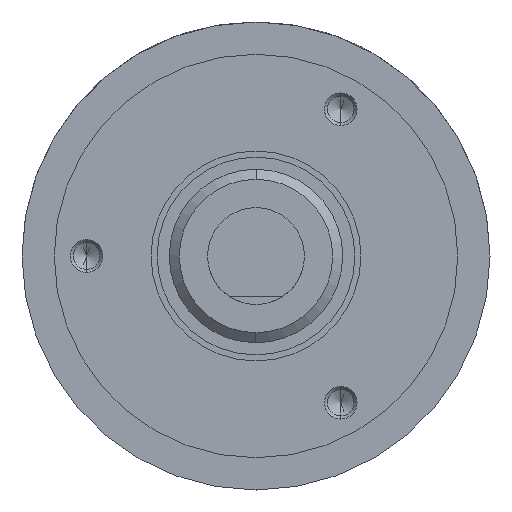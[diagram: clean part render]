
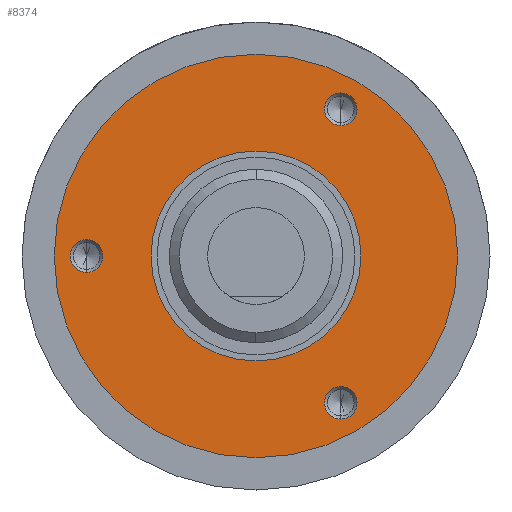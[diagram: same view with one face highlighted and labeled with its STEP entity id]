
A CAD part, left-side view. The second image highlights one B-rep face of the part: STEP entity #8374.
In plain terms, the highlighted planar face has unit normal (-1, 0, 0).
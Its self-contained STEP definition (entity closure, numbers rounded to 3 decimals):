
#44 = EDGE_LOOP ( 'NONE', ( #3217, #13370 ) ) ;
#121 = FACE_BOUND ( 'NONE', #8578, .T. ) ;
#270 = DIRECTION ( 'NONE',  ( 0., 0., 1. ) ) ;
#388 = DIRECTION ( 'NONE',  ( 0., 0., -1. ) ) ;
#447 = EDGE_CURVE ( 'NONE', #6017, #2593, #11311, .T. ) ;
#530 = DIRECTION ( 'NONE',  ( 0., 0., 1. ) ) ;
#612 = CIRCLE ( 'NONE', #10040, 2.025 ) ;
#1524 = DIRECTION ( 'NONE',  ( 0., 0., 1. ) ) ;
#1600 = CARTESIAN_POINT ( 'NONE',  ( -3.622, 14.923, -18.187 ) ) ;
#2144 = CARTESIAN_POINT ( 'NONE',  ( -3.622, 46.423, 2.025 ) ) ;
#2169 = EDGE_CURVE ( 'NONE', #2645, #8111, #5816, .T. ) ;
#2492 = ORIENTED_EDGE ( 'NONE', *, *, #2873, .T. ) ;
#2593 = VERTEX_POINT ( 'NONE', #11066 ) ;
#2645 = VERTEX_POINT ( 'NONE', #5687 ) ;
#2729 = CARTESIAN_POINT ( 'NONE',  ( -3.622, 14.923, 18.187 ) ) ;
#2788 = AXIS2_PLACEMENT_3D ( 'NONE', #15439, #14157, #9122 ) ;
#2873 = EDGE_CURVE ( 'NONE', #14090, #13572, #11661, .T. ) ;
#3103 = CARTESIAN_POINT ( 'NONE',  ( -3.622, 25.423, -25. ) ) ;
#3181 = ORIENTED_EDGE ( 'NONE', *, *, #16649, .T. ) ;
#3217 = ORIENTED_EDGE ( 'NONE', *, *, #11172, .F. ) ;
#3430 = DIRECTION ( 'NONE',  ( -1., 0., 0. ) ) ;
#3604 = AXIS2_PLACEMENT_3D ( 'NONE', #11945, #4068, #6920 ) ;
#3695 = CARTESIAN_POINT ( 'NONE',  ( -3.622, 25.423, 0. ) ) ;
#3825 = DIRECTION ( 'NONE',  ( -1., 0., 0. ) ) ;
#3914 = CIRCLE ( 'NONE', #8353, 2.025 ) ;
#4068 = DIRECTION ( 'NONE',  ( -1., 0., 0. ) ) ;
#4412 = EDGE_CURVE ( 'NONE', #9303, #6097, #6121, .T. ) ;
#4671 = DIRECTION ( 'NONE',  ( 0., 0., 1. ) ) ;
#4751 = EDGE_LOOP ( 'NONE', ( #5729, #13474 ) ) ;
#4814 = CIRCLE ( 'NONE', #14485, 25. ) ;
#4876 = CARTESIAN_POINT ( 'NONE',  ( -3.622, 25.423, 0. ) ) ;
#4917 = EDGE_CURVE ( 'NONE', #12406, #15829, #3914, .T. ) ;
#4954 = CARTESIAN_POINT ( 'NONE',  ( -3.622, 25.423, -13. ) ) ;
#5025 = AXIS2_PLACEMENT_3D ( 'NONE', #3695, #10523, #17018 ) ;
#5068 = DIRECTION ( 'NONE',  ( -1., 0., 0. ) ) ;
#5401 = FACE_BOUND ( 'NONE', #44, .T. ) ;
#5408 = EDGE_CURVE ( 'NONE', #8111, #2645, #612, .T. ) ;
#5412 = ORIENTED_EDGE ( 'NONE', *, *, #6884, .F. ) ;
#5687 = CARTESIAN_POINT ( 'NONE',  ( -3.622, 46.423, -2.025 ) ) ;
#5698 = ORIENTED_EDGE ( 'NONE', *, *, #5408, .F. ) ;
#5729 = ORIENTED_EDGE ( 'NONE', *, *, #4412, .F. ) ;
#5804 = DIRECTION ( 'NONE',  ( -1., 0., 0. ) ) ;
#5816 = CIRCLE ( 'NONE', #2788, 2.025 ) ;
#5875 = CARTESIAN_POINT ( 'NONE',  ( -3.622, 46.423, 0. ) ) ;
#5975 = ORIENTED_EDGE ( 'NONE', *, *, #2169, .F. ) ;
#6017 = VERTEX_POINT ( 'NONE', #10772 ) ;
#6097 = VERTEX_POINT ( 'NONE', #4954 ) ;
#6121 = CIRCLE ( 'NONE', #12772, 13. ) ;
#6185 = CIRCLE ( 'NONE', #10079, 2.025 ) ;
#6463 = CARTESIAN_POINT ( 'NONE',  ( -3.622, 14.923, -20.212 ) ) ;
#6597 = CARTESIAN_POINT ( 'NONE',  ( -3.622, 50.423, 0. ) ) ;
#6839 = ORIENTED_EDGE ( 'NONE', *, *, #447, .F. ) ;
#6860 = DIRECTION ( 'NONE',  ( -1., 0., 0. ) ) ;
#6866 = DIRECTION ( 'NONE',  ( 1., 0., 0. ) ) ;
#6884 = EDGE_CURVE ( 'NONE', #2593, #6017, #6185, .T. ) ;
#6920 = DIRECTION ( 'NONE',  ( 0., 0., 1. ) ) ;
#7941 = CARTESIAN_POINT ( 'NONE',  ( -3.622, 14.923, -16.162 ) ) ;
#8111 = VERTEX_POINT ( 'NONE', #2144 ) ;
#8353 = AXIS2_PLACEMENT_3D ( 'NONE', #1600, #6860, #530 ) ;
#8374 = ADVANCED_FACE ( 'NONE', ( #5401, #11894, #121, #13548, #12156 ), #13460, .F. ) ;
#8578 = EDGE_LOOP ( 'NONE', ( #5698, #5975 ) ) ;
#8863 = DIRECTION ( 'NONE',  ( 0., 0., 1. ) ) ;
#9122 = DIRECTION ( 'NONE',  ( 0., 0., 1. ) ) ;
#9303 = VERTEX_POINT ( 'NONE', #9706 ) ;
#9678 = EDGE_CURVE ( 'NONE', #6097, #9303, #15635, .T. ) ;
#9706 = CARTESIAN_POINT ( 'NONE',  ( -3.622, 25.423, 13. ) ) ;
#10040 = AXIS2_PLACEMENT_3D ( 'NONE', #5875, #12895, #4671 ) ;
#10079 = AXIS2_PLACEMENT_3D ( 'NONE', #2729, #5068, #1524 ) ;
#10171 = DIRECTION ( 'NONE',  ( -1., 0., 0. ) ) ;
#10523 = DIRECTION ( 'NONE',  ( -1., 0., 0. ) ) ;
#10663 = AXIS2_PLACEMENT_3D ( 'NONE', #12933, #3825, #16995 ) ;
#10772 = CARTESIAN_POINT ( 'NONE',  ( -3.622, 14.923, 20.212 ) ) ;
#11066 = CARTESIAN_POINT ( 'NONE',  ( -3.622, 14.923, 16.162 ) ) ;
#11172 = EDGE_CURVE ( 'NONE', #15829, #12406, #15212, .T. ) ;
#11311 = CIRCLE ( 'NONE', #15716, 2.025 ) ;
#11661 = CIRCLE ( 'NONE', #5025, 25. ) ;
#11894 = FACE_BOUND ( 'NONE', #15642, .T. ) ;
#11945 = CARTESIAN_POINT ( 'NONE',  ( -3.622, 14.923, -18.187 ) ) ;
#12156 = FACE_OUTER_BOUND ( 'NONE', #16792, .T. ) ;
#12229 = CARTESIAN_POINT ( 'NONE',  ( -3.622, 14.923, 18.187 ) ) ;
#12406 = VERTEX_POINT ( 'NONE', #6463 ) ;
#12607 = DIRECTION ( 'NONE',  ( 0., 0., 1. ) ) ;
#12772 = AXIS2_PLACEMENT_3D ( 'NONE', #15117, #3430, #12607 ) ;
#12895 = DIRECTION ( 'NONE',  ( -1., 0., 0. ) ) ;
#12933 = CARTESIAN_POINT ( 'NONE',  ( -3.622, 25.423, 0. ) ) ;
#13370 = ORIENTED_EDGE ( 'NONE', *, *, #4917, .F. ) ;
#13460 = PLANE ( 'NONE',  #13715 ) ;
#13474 = ORIENTED_EDGE ( 'NONE', *, *, #9678, .F. ) ;
#13548 = FACE_BOUND ( 'NONE', #4751, .T. ) ;
#13572 = VERTEX_POINT ( 'NONE', #3103 ) ;
#13715 = AXIS2_PLACEMENT_3D ( 'NONE', #6597, #6866, #388 ) ;
#14090 = VERTEX_POINT ( 'NONE', #15686 ) ;
#14157 = DIRECTION ( 'NONE',  ( -1., 0., 0. ) ) ;
#14485 = AXIS2_PLACEMENT_3D ( 'NONE', #4876, #10171, #8863 ) ;
#15117 = CARTESIAN_POINT ( 'NONE',  ( -3.622, 25.423, 0. ) ) ;
#15212 = CIRCLE ( 'NONE', #3604, 2.025 ) ;
#15439 = CARTESIAN_POINT ( 'NONE',  ( -3.622, 46.423, 0. ) ) ;
#15635 = CIRCLE ( 'NONE', #10663, 13. ) ;
#15642 = EDGE_LOOP ( 'NONE', ( #6839, #5412 ) ) ;
#15686 = CARTESIAN_POINT ( 'NONE',  ( -3.622, 25.423, 25. ) ) ;
#15716 = AXIS2_PLACEMENT_3D ( 'NONE', #12229, #5804, #270 ) ;
#15829 = VERTEX_POINT ( 'NONE', #7941 ) ;
#16649 = EDGE_CURVE ( 'NONE', #13572, #14090, #4814, .T. ) ;
#16792 = EDGE_LOOP ( 'NONE', ( #2492, #3181 ) ) ;
#16995 = DIRECTION ( 'NONE',  ( 0., 0., 1. ) ) ;
#17018 = DIRECTION ( 'NONE',  ( 0., 0., 1. ) ) ;
